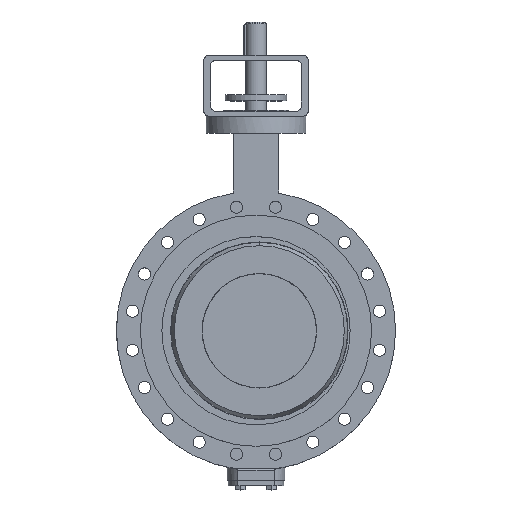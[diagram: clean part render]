
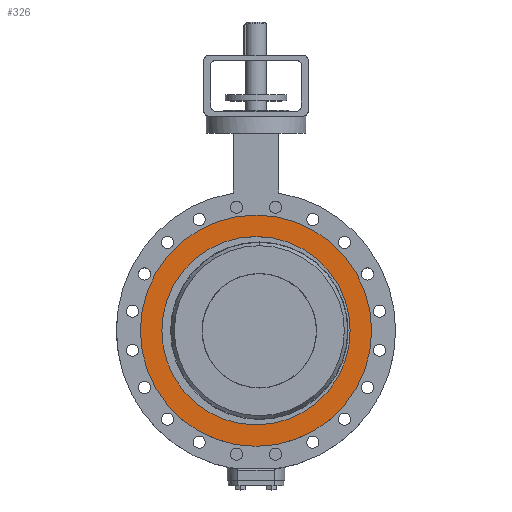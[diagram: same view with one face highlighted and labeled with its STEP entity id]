
A CAD part, top view. The second image highlights one B-rep face of the part: STEP entity #326.
In plain terms, the highlighted planar face has unit normal (0, 0, 1).
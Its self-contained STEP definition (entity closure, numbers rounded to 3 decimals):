
#326 = ADVANCED_FACE( '', ( #888, #889 ), #890, .T. );
#888 = FACE_BOUND( '', #1482, .T. );
#889 = FACE_OUTER_BOUND( '', #1483, .T. );
#890 = PLANE( '', #1484 );
#1482 = EDGE_LOOP( '', ( #3553, #3554, #3555 ) );
#1483 = EDGE_LOOP( '', ( #3556, #3557 ) );
#1484 = AXIS2_PLACEMENT_3D( '', #3558, #3559, #3560 );
#3553 = ORIENTED_EDGE( '', *, *, #3686, .F. );
#3554 = ORIENTED_EDGE( '', *, *, #3685, .F. );
#3555 = ORIENTED_EDGE( '', *, *, #4354, .F. );
#3556 = ORIENTED_EDGE( '', *, *, #3692, .T. );
#3557 = ORIENTED_EDGE( '', *, *, #4352, .T. );
#3558 = CARTESIAN_POINT( '', ( 0., 251.75, 76. ) );
#3559 = DIRECTION( '', ( 0., 0., 1. ) );
#3560 = DIRECTION( '', ( 0., 1., 0. ) );
#3685 = EDGE_CURVE( '', #4372, #4375, #4376, .T. );
#3686 = EDGE_CURVE( '', #4375, #4377, #4378, .T. );
#3692 = EDGE_CURVE( '', #4383, #4387, #4389, .T. );
#4352 = EDGE_CURVE( '', #4387, #4383, #5481, .T. );
#4354 = EDGE_CURVE( '', #4377, #4372, #5483, .T. );
#4372 = VERTEX_POINT( '', #5511 );
#4375 = VERTEX_POINT( '', #5515 );
#4376 = CIRCLE( '', #5516, 226. );
#4377 = VERTEX_POINT( '', #5517 );
#4378 = CIRCLE( '', #5518, 226. );
#4383 = VERTEX_POINT( '', #5524 );
#4387 = VERTEX_POINT( '', #5529 );
#4389 = CIRCLE( '', #5532, 277.5 );
#5481 = CIRCLE( '', #7965, 277.5 );
#5483 = CIRCLE( '', #7967, 226. );
#5511 = CARTESIAN_POINT( '', ( 226., 0., 76. ) );
#5515 = CARTESIAN_POINT( '', ( 0., 226., 76. ) );
#5516 = AXIS2_PLACEMENT_3D( '', #8007, #8008, #8009 );
#5517 = CARTESIAN_POINT( '', ( -226., 0., 76. ) );
#5518 = AXIS2_PLACEMENT_3D( '', #8010, #8011, #8012 );
#5524 = CARTESIAN_POINT( '', ( 0., 277.5, 76. ) );
#5529 = CARTESIAN_POINT( '', ( 0., -277.5, 76. ) );
#5532 = AXIS2_PLACEMENT_3D( '', #8022, #8023, #8024 );
#7965 = AXIS2_PLACEMENT_3D( '', #9204, #9205, #9206 );
#7967 = AXIS2_PLACEMENT_3D( '', #9210, #9211, #9212 );
#8007 = CARTESIAN_POINT( '', ( 0., 0., 76. ) );
#8008 = DIRECTION( '', ( 0., 0., 1. ) );
#8009 = DIRECTION( '', ( 0., 1., 0. ) );
#8010 = CARTESIAN_POINT( '', ( 0., 0., 76. ) );
#8011 = DIRECTION( '', ( 0., 0., 1. ) );
#8012 = DIRECTION( '', ( 0., 1., 0. ) );
#8022 = CARTESIAN_POINT( '', ( 0., 0., 76. ) );
#8023 = DIRECTION( '', ( 0., 0., 1. ) );
#8024 = DIRECTION( '', ( 0., 1., 0. ) );
#9204 = CARTESIAN_POINT( '', ( 0., 0., 76. ) );
#9205 = DIRECTION( '', ( 0., 0., 1. ) );
#9206 = DIRECTION( '', ( 0., 1., 0. ) );
#9210 = CARTESIAN_POINT( '', ( 0., 0., 76. ) );
#9211 = DIRECTION( '', ( 0., 0., 1. ) );
#9212 = DIRECTION( '', ( 0., 1., 0. ) );
